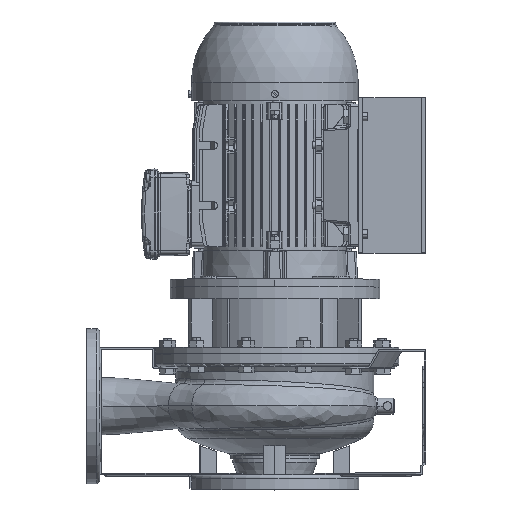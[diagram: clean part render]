
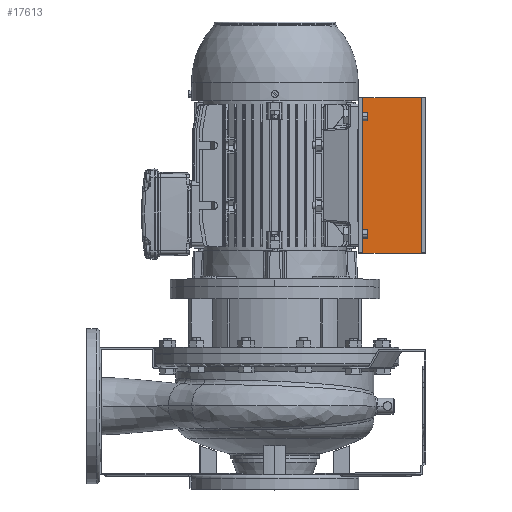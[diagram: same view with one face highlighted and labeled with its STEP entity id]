
A CAD part, top view. The second image highlights one B-rep face of the part: STEP entity #17613.
In plain terms, the highlighted planar face has unit normal (0, 0, 1).
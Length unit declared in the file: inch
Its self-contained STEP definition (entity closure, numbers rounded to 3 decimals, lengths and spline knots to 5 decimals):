
#3311 = VERTEX_POINT ( 'NONE', #45966 ) ;
#3828 = CARTESIAN_POINT ( 'NONE',  ( 4.13386, 8.87795, 2.51969 ) ) ;
#6084 = VECTOR ( 'NONE', #6973, 39.37008 ) ;
#6973 = DIRECTION ( 'NONE',  ( 1., 0., 0. ) ) ;
#7410 = EDGE_LOOP ( 'NONE', ( #146808, #141546, #89296, #59212 ) ) ;
#15799 = VECTOR ( 'NONE', #106786, 39.37008 ) ;
#16258 = CARTESIAN_POINT ( 'NONE',  ( 4.13386, 1.59449, 2.51969 ) ) ;
#17613 = ADVANCED_FACE ( 'NONE', ( #25134 ), #37430, .T. ) ;
#21309 = VERTEX_POINT ( 'NONE', #3828 ) ;
#25134 = FACE_OUTER_BOUND ( 'NONE', #7410, .T. ) ;
#25596 = VECTOR ( 'NONE', #78060, 39.37008 ) ;
#31073 = LINE ( 'NONE', #78822, #25596 ) ;
#31955 = LINE ( 'NONE', #68121, #120220 ) ;
#37430 = PLANE ( 'NONE',  #67435 ) ;
#37455 = LINE ( 'NONE', #141386, #15799 ) ;
#38651 = VERTEX_POINT ( 'NONE', #108450 ) ;
#41999 = DIRECTION ( 'NONE',  ( 0., -1., 0. ) ) ;
#45966 = CARTESIAN_POINT ( 'NONE',  ( 6.88976, 1.59449, 2.51969 ) ) ;
#47491 = DIRECTION ( 'NONE',  ( 0., -1., 0. ) ) ;
#52989 = VERTEX_POINT ( 'NONE', #16258 ) ;
#59212 = ORIENTED_EDGE ( 'NONE', *, *, #140150, .T. ) ;
#67435 = AXIS2_PLACEMENT_3D ( 'NONE', #95977, #106759, #47491 ) ;
#68121 = CARTESIAN_POINT ( 'NONE',  ( 6.88976, 8.87795, 2.51969 ) ) ;
#78060 = DIRECTION ( 'NONE',  ( 0., -1., 0. ) ) ;
#78708 = EDGE_CURVE ( 'NONE', #21309, #52989, #31073, .T. ) ;
#78822 = CARTESIAN_POINT ( 'NONE',  ( 4.13386, 8.87795, 2.51969 ) ) ;
#81535 = EDGE_CURVE ( 'NONE', #21309, #38651, #37455, .T. ) ;
#89296 = ORIENTED_EDGE ( 'NONE', *, *, #78708, .T. ) ;
#95977 = CARTESIAN_POINT ( 'NONE',  ( 6.88976, 1.59449, 2.51969 ) ) ;
#106759 = DIRECTION ( 'NONE',  ( 0., 0., 1. ) ) ;
#106786 = DIRECTION ( 'NONE',  ( 1., 0., 0. ) ) ;
#108450 = CARTESIAN_POINT ( 'NONE',  ( 6.88976, 8.87795, 2.51969 ) ) ;
#111726 = LINE ( 'NONE', #134823, #6084 ) ;
#111780 = EDGE_CURVE ( 'NONE', #38651, #3311, #31955, .T. ) ;
#120220 = VECTOR ( 'NONE', #41999, 39.37008 ) ;
#134823 = CARTESIAN_POINT ( 'NONE',  ( 4.13386, 1.59449, 2.51969 ) ) ;
#140150 = EDGE_CURVE ( 'NONE', #52989, #3311, #111726, .T. ) ;
#141386 = CARTESIAN_POINT ( 'NONE',  ( 4.13386, 8.87795, 2.51969 ) ) ;
#141546 = ORIENTED_EDGE ( 'NONE', *, *, #81535, .F. ) ;
#146808 = ORIENTED_EDGE ( 'NONE', *, *, #111780, .F. ) ;
